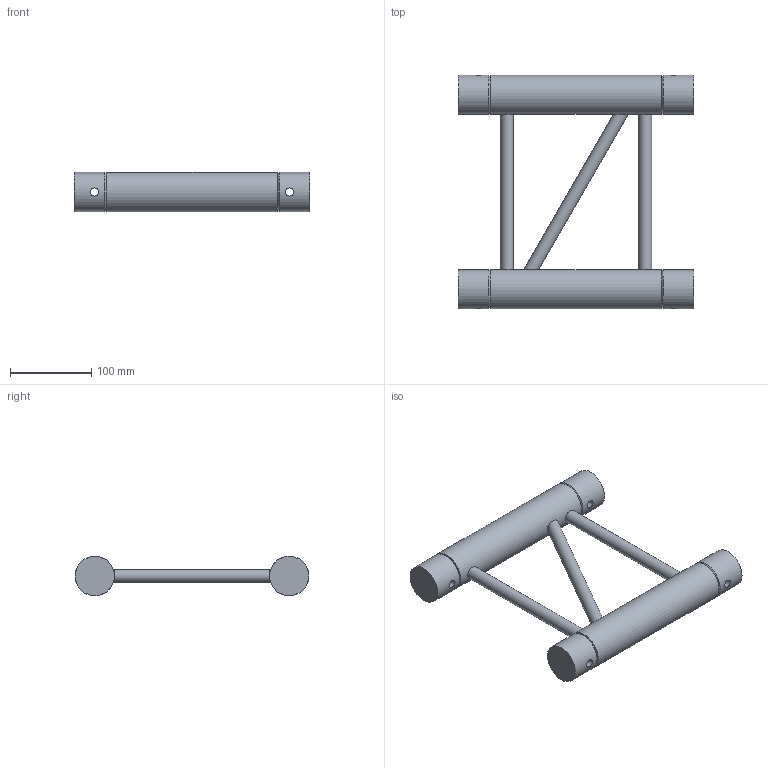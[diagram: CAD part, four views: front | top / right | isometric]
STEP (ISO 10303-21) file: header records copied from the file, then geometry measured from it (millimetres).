
FILE_DESCRIPTION(/* description */ (''),/* implementation_level */ '2;1');
FILE_NAME(/* name */ 'C:\Users\stephan\Desktop\Nieuwe map\H30L\111050037.stp',/* time_stamp */ '2016-09-12T11:45:12+02:00',/* author */ ('Stephan'),/* organization */ (''),/* preprocessor_version */ 'ST-DEVELOPER v15.6',/* originating_system */ 'Autodesk Inventor 2015',/* authorisation */ '');
FILE_SCHEMA (('AUTOMOTIVE_DESIGN { 1 0 10303 214 3 1 1 }'));
Length unit declared in the file: millimetre
Products named in the file (1): 160026970
Bounding box: 290 x 287.3 x 48.3 mm (x, y, z)
Volume: 629310.7 mm3; surface area: 200238.6 mm2
Topology: 5 solids, 7 shells, 49 faces, 86 edges, 55 vertices
Faces by surface type: plane 26, cylinder 19, cone 4
Full cylindrical faces by diameter (mm): 10 x4, 16 x3, 41.8 x4, 42.3 x2, 48.3 x6
Entity records: 1437 total; most frequent: CARTESIAN_POINT 442, DIRECTION 180, ORIENTED_EDGE 124, EDGE_LOOP 92, AXIS2_PLACEMENT_3D 88, EDGE_CURVE 58, VERTEX_POINT 54, STYLED_ITEM 51
